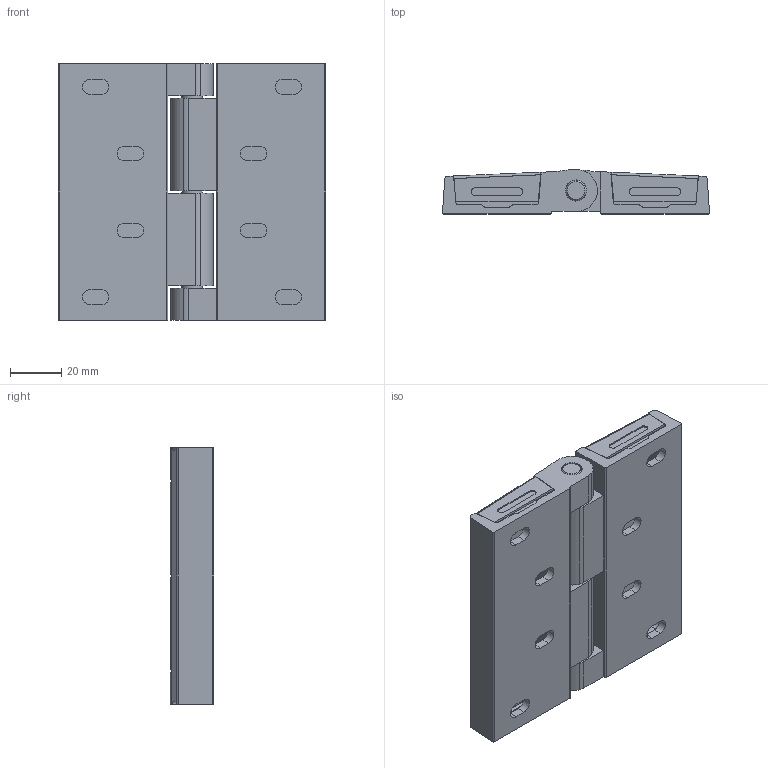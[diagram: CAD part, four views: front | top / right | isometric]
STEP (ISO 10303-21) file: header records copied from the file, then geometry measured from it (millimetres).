
FILE_DESCRIPTION(/* description */ ('STEP AP203'),/* implementation_level */ '2;1');
FILE_NAME(/* name */ 'HFR67-104',/* time_stamp */ '2023-12-06T02:01:56+01:00',/* author */ ('License CC BY-ND 4.0'),/* organization */ ('CADENAS'),/* preprocessor_version */ 'ST-DEVELOPER v19.3',/* originating_system */ 'PARTsolutions',/* authorisation */ ' ');
FILE_SCHEMA (('CONFIG_CONTROL_DESIGN'));
Length unit declared in the file: millimetre
Products named in the file (4): HFR67-104; HFR67-104-003; HFR67-104-002; HFR67-104-001
Assembly tree (5 placements, depth 2):
  HFR67-104
    HFR67-104-003
    HFR67-104-002  x2
    HFR67-104-001  x2
Bounding box: 104 x 17 x 100 mm (x, y, z)
Volume: 84196.2 mm3; surface area: 57584.7 mm2
Topology: 5 solids, 5 shells, 271 faces, 743 edges, 496 vertices
Faces by surface type: plane 158, cylinder 111, cone 2
Full cylindrical faces by diameter (mm): 8 x1, 8.2 x4
Entity records: 4479 total; most frequent: DIRECTION 770, CARTESIAN_POINT 760, ORIENTED_EDGE 736, EDGE_CURVE 368, AXIS2_PLACEMENT_3D 258, LINE 254, VECTOR 254, VERTEX_POINT 248
